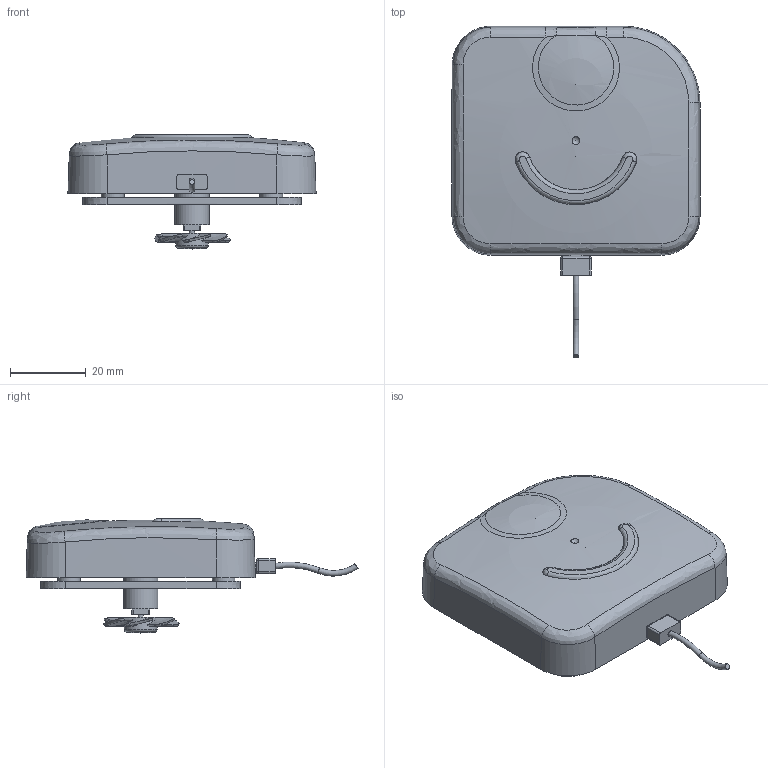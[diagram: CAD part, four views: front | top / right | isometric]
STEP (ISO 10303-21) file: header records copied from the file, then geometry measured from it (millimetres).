
FILE_DESCRIPTION(/* description */ (''),/* implementation_level */ '2;1');
FILE_NAME(/* name */ '教师组样题2.stp',/* time_stamp */ '2023-04-14T23:08:53+08:00',/* author */ (''),/* organization */ (''),/* preprocessor_version */ 'ST-DEVELOPER v16.7',/* originating_system */ 'SIEMENS PLM Software NX 12.0',/* authorisation */ '');
FILE_SCHEMA (('AUTOMOTIVE_DESIGN { 1 0 10303 214 3 1 1 1 }'));
Length unit declared in the file: millimetre
Products named in the file (1): 教师组样题2_stp
Bounding box: 65.73 x 87.92 x 30.2 mm (x, y, z)
Volume: 20283.6 mm3; surface area: 22452.8 mm2
Topology: 5 solids, 6 shells, 281 faces, 732 edges, 467 vertices
Faces by surface type: bspline 112, plane 69, cylinder 45, sphere 20, extrusion 16, revolution 15, torus 4
Full cylindrical faces by diameter (mm): 1.369 x2, 2 x1, 2.2 x1, 3 x4, 3.042 x1, 4 x4, 6 x4, 6.954 x1, 8.693 x1, 9.13 x2
Entity records: 15608 total; most frequent: CARTESIAN_POINT 9986, ORIENTED_EDGE 1308, DIRECTION 716, EDGE_CURVE 654, VERTEX_POINT 432, B_SPLINE_CURVE_WITH_KNOTS 387, EDGE_LOOP 342, ADVANCED_FACE 281
